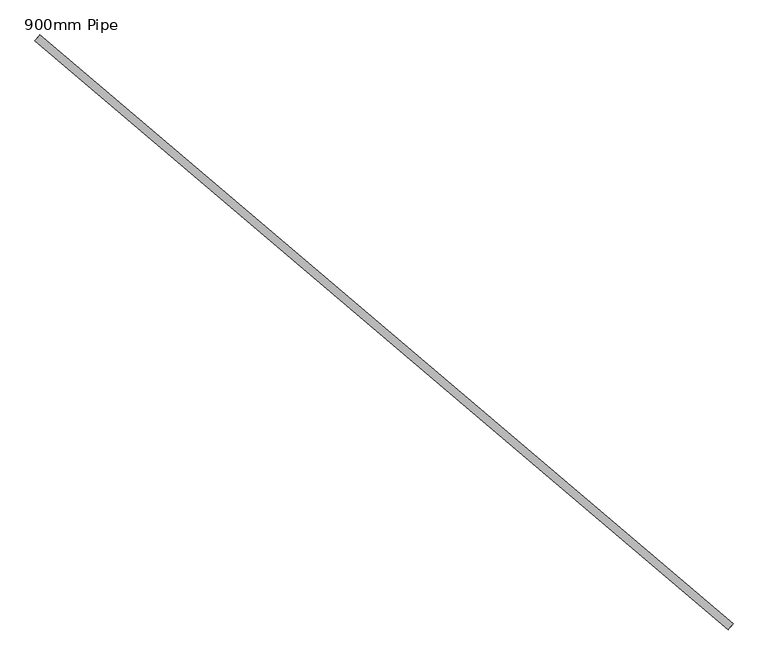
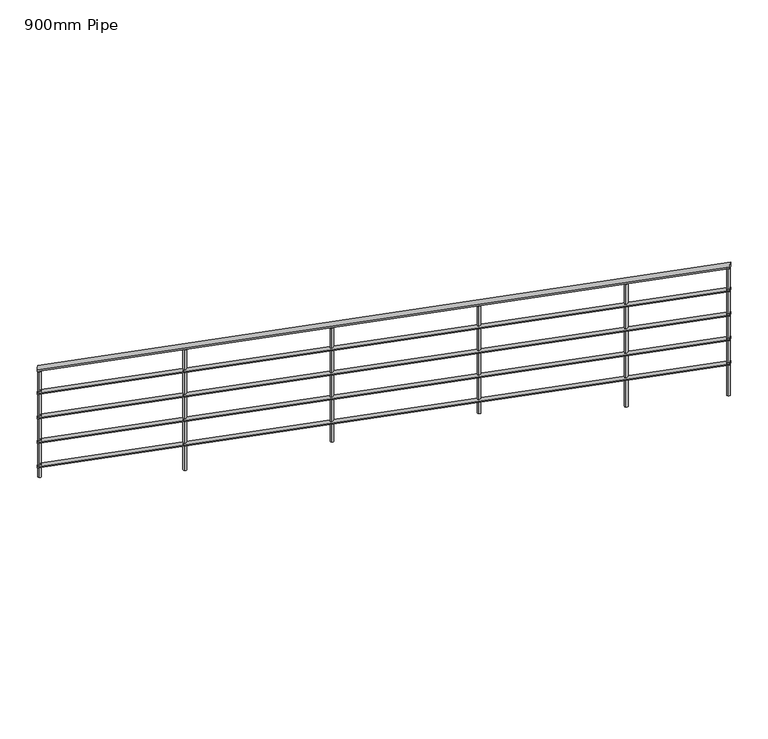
"""IFC4 building model written with IfcOpenShell, lengths in millimetres: railing geometry, 900mm Pipe."""

from ifc_helpers import new_model, si_unit, frame, origin, place, context, project, spatial, circle_curve, ellipse_curve, source, transform, mapped, element, save
from ifc_brep_helpers import plane_surface, cylinder_surface, advanced_brep


def railing_900mm_pipe_cd6d1b87(model_context):
    return source(origin(), model_context, "Body", "AdvancedBrep", [
        advanced_brep(
        [(864186.1079701, 51744.4242253, 3558.386247), (864212.0022112, 51774.9117354, 3558.386247), (867773.9438441, 48697.1341369, 4992.7391882), (867799.8380853, 48727.621647, 4992.7391882)],
        [
            (0, 1, ellipse_curve(frame((864199.0550907, 51759.6679803, 3558.386247), z_axis=(-0.7621877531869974, 0.6473560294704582, 0.0), x_axis=(0.0, 0.0, -1.0)), 20.9078706, 20.0)),
            (1, 0, ellipse_curve(frame((864199.0550907, 51759.6679803, 3558.386247), z_axis=(-0.7621877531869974, 0.6473560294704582, 0.0), x_axis=(0.0, 0.0, -1.0)), 20.9078706, 20.0)),
            (2, 3, ellipse_curve(frame((867786.8909647, 48712.3778919, 4992.7391882), z_axis=(0.7621877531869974, -0.6473560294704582, 0.0), x_axis=(0.0, 0.0, -1.0)), 20.9078706, 20.0)),
            (3, 2, ellipse_curve(frame((867786.8909647, 48712.3778919, 4992.7391882), z_axis=(0.7621877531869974, -0.6473560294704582, 0.0), x_axis=(0.0, 0.0, -1.0)), 20.9078706, 20.0)),
            (1, 3),
            (2, 0),
        ],
        [
            plane_surface(frame((864199.0550907, 51759.6679803, 3579.2941176), z_axis=(-0.7621877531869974, 0.6473560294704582, 0.0), x_axis=(0.6473560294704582, 0.7621877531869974, 0.0))),
            plane_surface(frame((867786.8909647, 48712.3778919, 5013.6470588), z_axis=(0.7621877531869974, -0.6473560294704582, 0.0), x_axis=(0.6473560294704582, 0.7621877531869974, 0.0))),
            cylinder_surface(frame((864203.4983082, 51755.8941809, 3560.1625663), z_axis=(-0.7290917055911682, 0.6192462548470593, -0.29147789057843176), x_axis=(0.6473560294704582, 0.7621877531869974, 0.0)), 20.0),
        ],
        [
            (0, [[1, 2]]),
            (1, [[3, 4]]),
            (2, [[-2, 5, -3, 6]]),
            (2, [[-1, -6, -4, -5]]),
        ],
    ),
        advanced_brep(
        [(864189.3447502, 51748.2351641, 3363.6132147), (864208.7654311, 51771.1007966, 3363.6132147), (867777.1806242, 48700.9450756, 4797.9661558), (867796.6013051, 48723.8107082, 4797.9661558)],
        [
            (0, 1, ellipse_curve(frame((864199.0550907, 51759.6679803, 3363.6132147), z_axis=(-0.7621877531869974, 0.6473560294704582, 0.0), x_axis=(0.0, 0.0, -1.0)), 15.680903, 15.0)),
            (1, 0, ellipse_curve(frame((864199.0550907, 51759.6679803, 3363.6132147), z_axis=(-0.7621877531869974, 0.6473560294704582, 0.0), x_axis=(0.0, 0.0, -1.0)), 15.680903, 15.0)),
            (2, 3, ellipse_curve(frame((867786.8909647, 48712.3778919, 4797.9661558), z_axis=(0.7621877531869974, -0.6473560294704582, 0.0), x_axis=(0.0, 0.0, -1.0)), 15.680903, 15.0)),
            (3, 2, ellipse_curve(frame((867786.8909647, 48712.3778919, 4797.9661558), z_axis=(0.7621877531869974, -0.6473560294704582, 0.0), x_axis=(0.0, 0.0, -1.0)), 15.680903, 15.0)),
            (0, 2),
            (3, 1),
        ],
        [
            plane_surface(frame((864199.0550907, 51759.6679803, 3379.2941176), z_axis=(-0.7621877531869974, 0.6473560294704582, 0.0), x_axis=(0.6473560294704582, 0.7621877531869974, 0.0))),
            plane_surface(frame((867786.8909647, 48712.3778919, 4813.6470588), z_axis=(0.7621877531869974, -0.6473560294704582, 0.0), x_axis=(0.6473560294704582, 0.7621877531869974, 0.0))),
            cylinder_surface(frame((864202.3875038, 51756.8376308, 3364.9454542), z_axis=(-0.7290917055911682, 0.6192462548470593, -0.29147789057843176), x_axis=(0.6473560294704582, 0.7621877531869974, 0.0)), 15.0),
        ],
        [
            (0, [[1, 2]]),
            (1, [[3, 4]]),
            (2, [[-1, 5, -4, 6]]),
            (2, [[-2, -6, -3, -5]]),
        ],
    ),
        advanced_brep(
        [(864189.3447502, 51748.2351641, 3163.6132147), (864208.7654311, 51771.1007966, 3163.6132147), (867777.1806242, 48700.9450756, 4597.9661558), (867796.6013051, 48723.8107082, 4597.9661558)],
        [
            (0, 1, ellipse_curve(frame((864199.0550907, 51759.6679803, 3163.6132147), z_axis=(-0.7621877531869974, 0.6473560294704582, 0.0), x_axis=(0.0, 0.0, -1.0)), 15.680903, 15.0)),
            (1, 0, ellipse_curve(frame((864199.0550907, 51759.6679803, 3163.6132147), z_axis=(-0.7621877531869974, 0.6473560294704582, 0.0), x_axis=(0.0, 0.0, -1.0)), 15.680903, 15.0)),
            (2, 3, ellipse_curve(frame((867786.8909647, 48712.3778919, 4597.9661558), z_axis=(0.7621877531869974, -0.6473560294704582, 0.0), x_axis=(0.0, 0.0, -1.0)), 15.680903, 15.0)),
            (3, 2, ellipse_curve(frame((867786.8909647, 48712.3778919, 4597.9661558), z_axis=(0.7621877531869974, -0.6473560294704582, 0.0), x_axis=(0.0, 0.0, -1.0)), 15.680903, 15.0)),
            (0, 2),
            (3, 1),
        ],
        [
            plane_surface(frame((864199.0550907, 51759.6679803, 3179.2941176), z_axis=(-0.7621877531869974, 0.6473560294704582, 0.0), x_axis=(0.6473560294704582, 0.7621877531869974, 0.0))),
            plane_surface(frame((867786.8909647, 48712.3778919, 4613.6470588), z_axis=(0.7621877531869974, -0.6473560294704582, 0.0), x_axis=(0.6473560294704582, 0.7621877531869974, 0.0))),
            cylinder_surface(frame((864202.3875038, 51756.8376308, 3164.9454542), z_axis=(-0.7290917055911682, 0.6192462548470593, -0.29147789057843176), x_axis=(0.6473560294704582, 0.7621877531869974, 0.0)), 15.0),
        ],
        [
            (0, [[1, 2]]),
            (1, [[3, 4]]),
            (2, [[-1, 5, -4, 6]]),
            (2, [[-2, -6, -3, -5]]),
        ],
    ),
        advanced_brep(
        [(864189.3447502, 51748.2351641, 2963.6132147), (864208.7654311, 51771.1007966, 2963.6132147), (867777.1806242, 48700.9450756, 4397.9661558), (867796.6013051, 48723.8107082, 4397.9661558)],
        [
            (0, 1, ellipse_curve(frame((864199.0550907, 51759.6679803, 2963.6132147), z_axis=(-0.7621877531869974, 0.6473560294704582, 0.0), x_axis=(0.0, 0.0, -1.0)), 15.680903, 15.0)),
            (1, 0, ellipse_curve(frame((864199.0550907, 51759.6679803, 2963.6132147), z_axis=(-0.7621877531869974, 0.6473560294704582, 0.0), x_axis=(0.0, 0.0, -1.0)), 15.680903, 15.0)),
            (2, 3, ellipse_curve(frame((867786.8909647, 48712.3778919, 4397.9661558), z_axis=(0.7621877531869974, -0.6473560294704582, 0.0), x_axis=(0.0, 0.0, -1.0)), 15.680903, 15.0)),
            (3, 2, ellipse_curve(frame((867786.8909647, 48712.3778919, 4397.9661558), z_axis=(0.7621877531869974, -0.6473560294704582, 0.0), x_axis=(0.0, 0.0, -1.0)), 15.680903, 15.0)),
            (0, 2),
            (3, 1),
        ],
        [
            plane_surface(frame((864199.0550907, 51759.6679803, 2979.2941176), z_axis=(-0.7621877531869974, 0.6473560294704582, 0.0), x_axis=(0.6473560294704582, 0.7621877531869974, 0.0))),
            plane_surface(frame((867786.8909647, 48712.3778919, 4413.6470588), z_axis=(0.7621877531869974, -0.6473560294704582, 0.0), x_axis=(0.6473560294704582, 0.7621877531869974, 0.0))),
            cylinder_surface(frame((864202.3875038, 51756.8376308, 2964.9454542), z_axis=(-0.7290917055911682, 0.6192462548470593, -0.29147789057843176), x_axis=(0.6473560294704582, 0.7621877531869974, 0.0)), 15.0),
        ],
        [
            (0, [[1, 2]]),
            (1, [[3, 4]]),
            (2, [[-1, 5, -4, 6]]),
            (2, [[-2, -6, -3, -5]]),
        ],
    ),
        advanced_brep(
        [(864189.3447502, 51748.2351641, 2763.6132147), (864208.7654311, 51771.1007966, 2763.6132147), (867777.1806242, 48700.9450756, 4197.9661558), (867796.6013051, 48723.8107082, 4197.9661558)],
        [
            (0, 1, ellipse_curve(frame((864199.0550907, 51759.6679803, 2763.6132147), z_axis=(-0.7621877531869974, 0.6473560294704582, 0.0), x_axis=(0.0, 0.0, -1.0)), 15.680903, 15.0)),
            (1, 0, ellipse_curve(frame((864199.0550907, 51759.6679803, 2763.6132147), z_axis=(-0.7621877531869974, 0.6473560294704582, 0.0), x_axis=(0.0, 0.0, -1.0)), 15.680903, 15.0)),
            (2, 3, ellipse_curve(frame((867786.8909647, 48712.3778919, 4197.9661558), z_axis=(0.7621877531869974, -0.6473560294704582, 0.0), x_axis=(0.0, 0.0, -1.0)), 15.680903, 15.0)),
            (3, 2, ellipse_curve(frame((867786.8909647, 48712.3778919, 4197.9661558), z_axis=(0.7621877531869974, -0.6473560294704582, 0.0), x_axis=(0.0, 0.0, -1.0)), 15.680903, 15.0)),
            (0, 2),
            (3, 1),
        ],
        [
            plane_surface(frame((864199.0550907, 51759.6679803, 2779.2941176), z_axis=(-0.7621877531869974, 0.6473560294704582, 0.0), x_axis=(0.6473560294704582, 0.7621877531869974, 0.0))),
            plane_surface(frame((867786.8909647, 48712.3778919, 4213.6470588), z_axis=(0.7621877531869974, -0.6473560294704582, 0.0), x_axis=(0.6473560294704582, 0.7621877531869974, 0.0))),
            cylinder_surface(frame((864202.3875038, 51756.8376308, 2764.9454542), z_axis=(-0.7290917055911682, 0.6192462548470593, -0.29147789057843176), x_axis=(0.6473560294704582, 0.7621877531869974, 0.0)), 15.0),
        ],
        [
            (0, [[1, 2]]),
            (1, [[3, 4]]),
            (2, [[-1, 5, -4, 6]]),
            (2, [[-2, -6, -3, -5]]),
        ],
    ),
        advanced_brep(
        [(867255.8980538, 49179.7712094, 4756.3147824), (867239.714153, 49160.7165156, 4756.3147824), (867239.714153, 49160.7165156, 3755.0588235), (867255.8980538, 49179.7712094, 3755.0588235)],
        [
            (0, 1, ellipse_curve(frame((867247.8061034, 49170.2438625, 4756.3147824), z_axis=(0.2221608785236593, -0.18868996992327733, -0.9565775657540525), x_axis=(0.7290917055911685, -0.6192462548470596, 0.2914778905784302)), 13.0674191, 12.5)),
            (1, 2),
            (2, 3, circle_curve(frame((867247.8061034, 49170.2438625, 3755.0588235), z_axis=(0.0, 0.0, 1.0), x_axis=(-0.6473560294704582, -0.7621877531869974, 0.0)), 12.5)),
            (3, 0),
            (3, 2, circle_curve(frame((867247.8061034, 49170.2438625, 3755.0588235), z_axis=(0.0, 0.0, 1.0), x_axis=(-0.6473560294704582, -0.7621877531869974, 0.0)), 12.5)),
            (1, 0, ellipse_curve(frame((867247.8061034, 49170.2438625, 4756.3147824), z_axis=(0.2221608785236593, -0.18868996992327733, -0.9565775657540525), x_axis=(0.7290917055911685, -0.6192462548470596, 0.2914778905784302)), 13.0674191, 12.5)),
        ],
        [
            cylinder_surface(frame((867247.8061034, 49170.2438625, 3655.0588235), z_axis=(0.0, 0.0, 1.0), x_axis=(-0.6473560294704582, -0.7621877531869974, 0.0)), 12.5),
            plane_surface(frame((867250.6768965, 49135.0052679, 4763.9325099), z_axis=(-0.2221608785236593, 0.18868996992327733, 0.9565775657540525), x_axis=(0.6473560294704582, 0.7621877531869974, 0.0))),
            plane_surface(frame((867212.5675088, 49167.3730694, 3755.0588235), z_axis=(0.0, 0.0, -1.0), x_axis=(0.6473560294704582, 0.7621877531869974, 0.0))),
        ],
        [
            (0, [[1, 2, 3, 4]]),
            (0, [[5, -2, 6, -4]]),
            (1, [[-6, -1]]),
            (2, [[-5, -3]]),
        ],
    ),
        advanced_brep(
        [(866493.7103006, 49827.1272389, 4451.6056809), (866477.5263999, 49808.072545, 4451.6056809), (866477.5263999, 49808.072545, 3575.7647059), (866493.7103006, 49827.1272389, 3575.7647059)],
        [
            (0, 1, ellipse_curve(frame((866485.6183502, 49817.5998919, 4451.6056809), z_axis=(0.2221608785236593, -0.18868996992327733, -0.9565775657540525), x_axis=(0.7290917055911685, -0.6192462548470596, 0.2914778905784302)), 13.0674191, 12.5)),
            (1, 2),
            (2, 3, circle_curve(frame((866485.6183502, 49817.5998919, 3575.7647059), z_axis=(0.0, 0.0, 1.0), x_axis=(-0.6473560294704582, -0.7621877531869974, 0.0)), 12.5)),
            (3, 0),
            (3, 2, circle_curve(frame((866485.6183502, 49817.5998919, 3575.7647059), z_axis=(0.0, 0.0, 1.0), x_axis=(-0.6473560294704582, -0.7621877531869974, 0.0)), 12.5)),
            (1, 0, ellipse_curve(frame((866485.6183502, 49817.5998919, 4451.6056809), z_axis=(0.2221608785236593, -0.18868996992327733, -0.9565775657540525), x_axis=(0.7290917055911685, -0.6192462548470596, 0.2914778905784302)), 13.0674191, 12.5)),
        ],
        [
            cylinder_surface(frame((866485.6183502, 49817.5998919, 3475.7647059), z_axis=(0.0, 0.0, 1.0), x_axis=(-0.6473560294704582, -0.7621877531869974, 0.0)), 12.5),
            plane_surface(frame((866488.4891433, 49782.3612974, 4459.2234084), z_axis=(-0.2221608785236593, 0.18868996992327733, 0.9565775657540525), x_axis=(0.6473560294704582, 0.7621877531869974, 0.0))),
            plane_surface(frame((866450.3797557, 49814.7290988, 3575.7647059), z_axis=(0.0, 0.0, -1.0), x_axis=(0.6473560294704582, 0.7621877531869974, 0.0))),
        ],
        [
            (0, [[1, 2, 3, 4]]),
            (0, [[5, -2, 6, -4]]),
            (1, [[-6, -1]]),
            (2, [[-5, -3]]),
        ],
    ),
        advanced_brep(
        [(865731.5225474, 50474.4832683, 4146.8965794), (865715.3386467, 50455.4285745, 4146.8965794), (865715.3386467, 50455.4285745, 3217.1764706), (865731.5225474, 50474.4832683, 3217.1764706)],
        [
            (0, 1, ellipse_curve(frame((865723.430597, 50464.9559214, 4146.8965794), z_axis=(0.2221608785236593, -0.18868996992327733, -0.9565775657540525), x_axis=(0.7290917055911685, -0.6192462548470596, 0.2914778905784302)), 13.0674191, 12.5)),
            (1, 2),
            (2, 3, circle_curve(frame((865723.430597, 50464.9559214, 3217.1764706), z_axis=(0.0, 0.0, 1.0), x_axis=(-0.6473560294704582, -0.7621877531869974, 0.0)), 12.5)),
            (3, 0),
            (3, 2, circle_curve(frame((865723.430597, 50464.9559214, 3217.1764706), z_axis=(0.0, 0.0, 1.0), x_axis=(-0.6473560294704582, -0.7621877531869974, 0.0)), 12.5)),
            (1, 0, ellipse_curve(frame((865723.430597, 50464.9559214, 4146.8965794), z_axis=(0.2221608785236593, -0.18868996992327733, -0.9565775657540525), x_axis=(0.7290917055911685, -0.6192462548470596, 0.2914778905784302)), 13.0674191, 12.5)),
        ],
        [
            cylinder_surface(frame((865723.430597, 50464.9559214, 3117.1764706), z_axis=(0.0, 0.0, 1.0), x_axis=(-0.6473560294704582, -0.7621877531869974, 0.0)), 12.5),
            plane_surface(frame((865726.3013901, 50429.7173268, 4154.5143069), z_axis=(-0.2221608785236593, 0.18868996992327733, 0.9565775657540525), x_axis=(0.6473560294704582, 0.7621877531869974, 0.0))),
            plane_surface(frame((865688.1920025, 50462.0851283, 3217.1764706), z_axis=(0.0, 0.0, -1.0), x_axis=(0.6473560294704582, 0.7621877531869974, 0.0))),
        ],
        [
            (0, [[1, 2, 3, 4]]),
            (0, [[5, -2, 6, -4]]),
            (1, [[-6, -1]]),
            (2, [[-5, -3]]),
        ],
    ),
        advanced_brep(
        [(864969.3347942, 51121.8392978, 3842.1874779), (864953.1508935, 51102.784604, 3842.1874779), (864953.1508935, 51102.784604, 2858.5882353), (864969.3347942, 51121.8392978, 2858.5882353)],
        [
            (0, 1, ellipse_curve(frame((864961.2428438, 51112.3119509, 3842.1874779), z_axis=(0.2221608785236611, -0.18868996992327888, -0.9565775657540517), x_axis=(0.7290917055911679, -0.6192462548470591, 0.29147789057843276)), 13.0674191, 12.5)),
            (1, 2),
            (2, 3, circle_curve(frame((864961.2428438, 51112.3119509, 2858.5882353), z_axis=(0.0, 0.0, 1.0), x_axis=(-0.6473560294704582, -0.7621877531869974, 0.0)), 12.5)),
            (3, 0),
            (3, 2, circle_curve(frame((864961.2428438, 51112.3119509, 2858.5882353), z_axis=(0.0, 0.0, 1.0), x_axis=(-0.6473560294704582, -0.7621877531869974, 0.0)), 12.5)),
            (1, 0, ellipse_curve(frame((864961.2428438, 51112.3119509, 3842.1874779), z_axis=(0.2221608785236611, -0.18868996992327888, -0.9565775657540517), x_axis=(0.7290917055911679, -0.6192462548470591, 0.29147789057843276)), 13.0674191, 12.5)),
        ],
        [
            cylinder_surface(frame((864961.2428438, 51112.3119509, 2758.5882353), z_axis=(0.0, 0.0, 1.0), x_axis=(-0.6473560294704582, -0.7621877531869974, 0.0)), 12.5),
            plane_surface(frame((864964.1136369, 51077.0733563, 3849.8052054), z_axis=(-0.2221608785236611, 0.18868996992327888, 0.9565775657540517), x_axis=(0.6473560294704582, 0.7621877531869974, 0.0))),
            plane_surface(frame((864926.0042493, 51109.4411578, 2858.5882353), z_axis=(0.0, 0.0, -1.0), x_axis=(0.6473560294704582, 0.7621877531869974, 0.0))),
        ],
        [
            (0, [[1, 2, 3, 4]]),
            (0, [[5, -2, 6, -4]]),
            (1, [[-6, -1]]),
            (2, [[-5, -3]]),
        ],
    ),
        advanced_brep(
        [(867785.4555681, 48729.9971892, 4968.0224538), (867769.2716674, 48710.9424954, 4968.0224538), (867769.2716674, 48710.9424954, 3934.3529412), (867785.4555681, 48729.9971892, 3934.3529412)],
        [
            (0, 1, ellipse_curve(frame((867777.3636178, 48720.4698423, 4968.0224538), z_axis=(0.2221608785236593, -0.18868996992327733, -0.9565775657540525), x_axis=(0.7290917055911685, -0.6192462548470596, 0.2914778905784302)), 13.0674191, 12.5)),
            (1, 2),
            (2, 3, circle_curve(frame((867777.3636178, 48720.4698423, 3934.3529412), z_axis=(0.0, 0.0, 1.0), x_axis=(-0.6473560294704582, -0.7621877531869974, 0.0)), 12.5)),
            (3, 0),
            (3, 2, circle_curve(frame((867777.3636178, 48720.4698423, 3934.3529412), z_axis=(0.0, 0.0, 1.0), x_axis=(-0.6473560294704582, -0.7621877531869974, 0.0)), 12.5)),
            (1, 0, ellipse_curve(frame((867777.3636178, 48720.4698423, 4968.0224538), z_axis=(0.2221608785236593, -0.18868996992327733, -0.9565775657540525), x_axis=(0.7290917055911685, -0.6192462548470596, 0.2914778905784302)), 13.0674191, 12.5)),
        ],
        [
            cylinder_surface(frame((867777.3636178, 48720.4698423, 3834.3529412), z_axis=(0.0, 0.0, 1.0), x_axis=(-0.6473560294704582, -0.7621877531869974, 0.0)), 12.5),
            plane_surface(frame((867780.2344109, 48685.2312477, 4975.6401813), z_axis=(-0.2221608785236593, 0.18868996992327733, 0.9565775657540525), x_axis=(0.6473560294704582, 0.7621877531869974, 0.0))),
            plane_surface(frame((867742.1250232, 48717.5990492, 3934.3529412), z_axis=(0.0, 0.0, -1.0), x_axis=(0.6473560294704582, 0.7621877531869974, 0.0))),
        ],
        [
            (0, [[1, 2, 3, 4]]),
            (0, [[5, -2, 6, -4]]),
            (1, [[-6, -1]]),
            (2, [[-5, -3]]),
        ],
    ),
        advanced_brep(
        [(864216.6743879, 51761.1033769, 3541.2872401), (864200.4904872, 51742.0486831, 3541.2872401), (864200.4904872, 51742.0486831, 2679.2941176), (864216.6743879, 51761.1033769, 2679.2941176)],
        [
            (0, 1, ellipse_curve(frame((864208.5824376, 51751.57603, 3541.2872401), z_axis=(0.2221608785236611, -0.18868996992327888, -0.9565775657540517), x_axis=(0.7290917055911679, -0.6192462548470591, 0.29147789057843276)), 13.0674191, 12.5)),
            (1, 2),
            (2, 3, circle_curve(frame((864208.5824376, 51751.57603, 2679.2941176), z_axis=(0.0, 0.0, 1.0), x_axis=(-0.6473560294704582, -0.7621877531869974, 0.0)), 12.5)),
            (3, 0),
            (3, 2, circle_curve(frame((864208.5824376, 51751.57603, 2679.2941176), z_axis=(0.0, 0.0, 1.0), x_axis=(-0.6473560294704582, -0.7621877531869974, 0.0)), 12.5)),
            (1, 0, ellipse_curve(frame((864208.5824376, 51751.57603, 3541.2872401), z_axis=(0.2221608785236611, -0.18868996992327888, -0.9565775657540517), x_axis=(0.7290917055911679, -0.6192462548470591, 0.29147789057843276)), 13.0674191, 12.5)),
        ],
        [
            cylinder_surface(frame((864208.5824376, 51751.57603, 2579.2941176), z_axis=(0.0, 0.0, 1.0), x_axis=(-0.6473560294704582, -0.7621877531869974, 0.0)), 12.5),
            plane_surface(frame((864211.4532307, 51716.3374354, 3548.9049677), z_axis=(-0.2221608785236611, 0.18868996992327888, 0.9565775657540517), x_axis=(0.6473560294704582, 0.7621877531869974, 0.0))),
            plane_surface(frame((864173.343843, 51748.7052369, 2679.2941176), z_axis=(0.0, 0.0, -1.0), x_axis=(0.6473560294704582, 0.7621877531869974, 0.0))),
        ],
        [
            (0, [[1, 2, 3, 4]]),
            (0, [[5, -2, 6, -4]]),
            (1, [[-6, -1]]),
            (2, [[-5, -3]]),
        ],
    ),
    ])


if __name__ == "__main__":
    model = new_model("IFC4")
    model_context = context("Model", 3, world=origin())
    ifc_project = project(units=[si_unit("LENGTHUNIT", "METRE", prefix="MILLI")], contexts=[model_context])
    site = spatial("IfcSite", under=ifc_project)
    building = spatial("IfcBuilding", under=site)
    placement = place(None, origin())
    railing_900mm_pipe_shape = railing_900mm_pipe_cd6d1b87(model_context)
    element("IfcRailing", 1, ObjectType="900mm Pipe", at=placement, inside=building, context=model_context, shape_type="MappedRepresentation", body=[
        mapped(railing_900mm_pipe_shape, transform((0.0, 0.0, 0.0), x_axis=(1.0, 0.0, 0.0), y_axis=(0.0, 1.0, 0.0), z_axis=(0.0, 0.0, 1.0))),
    ])
    save(model, "model.ifc")
